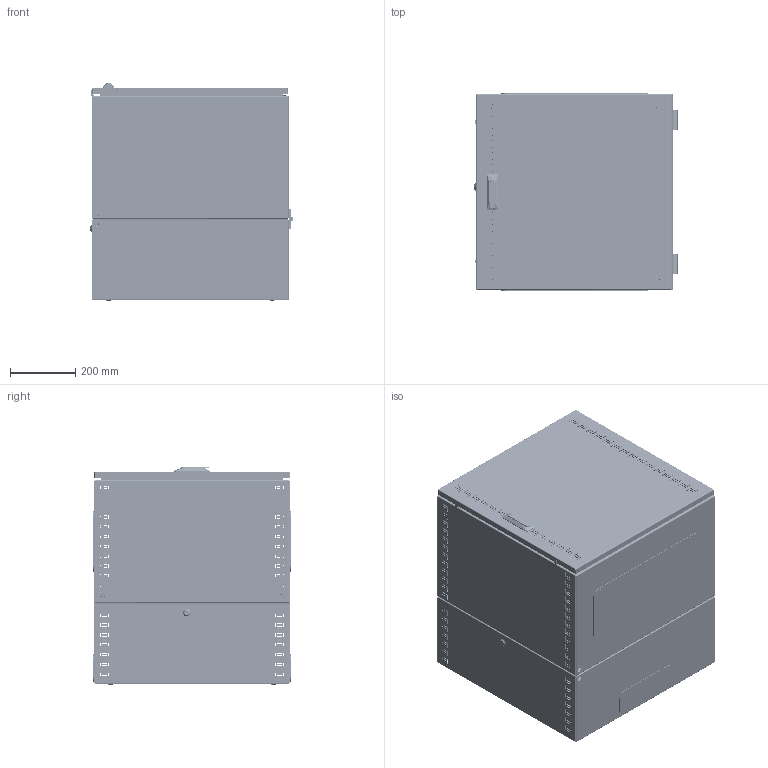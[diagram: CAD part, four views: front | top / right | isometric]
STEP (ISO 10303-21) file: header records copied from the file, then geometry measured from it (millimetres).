
FILE_DESCRIPTION (( 'STEP AP203' ), '1' );
FILE_NAME ('R5STI1265.STEP', '2019-07-16T12:17:35', ( '' ), ( '' ), 'SwSTEP 2.0', 'SolidWorks 2017', '' );
FILE_SCHEMA (( 'CONFIG_CONTROL_DESIGN' ));
Length unit declared in the file: millimetre
Products named in the file (49): M6 art.MGR-MKO-0625_2洵; AC00C380; RB.0048.02.01.0; RB.0374.06.00.0 ÑÁ_-01 (600å600); Lock 20x17,5x90 Ruslock; PF 7,5x15 door STI_0600å0600; Ì6õ12-A5100231_straight; RB.0692.02.01.0; R5STI1265; RB.0374.00.01.0_-00 (400); RB.0692.04.00.0 ÑÁ_-01 (600å600); Handle Mesan (part 1); RB.0692.03.00.0 C縫-01 (600x600); RB.0692.02.00.0 C縫-01 (600x600x400); MirrorRB.0374.00.01.0_-00 (400)<As Machined>; RB.0692.01.01.0_-01 (600å600å400); Handle Mesan (part 2); AC00C061_AC00C061; Hinge M8 60x60 Ruslock; MirrorMirrorRB.0374.00.01.0_-00 (400)<As Machined><As Machined>; RB.0692.01.02.0_-01 (600å600); Catch Mesan; RB.0374.04.01.0; M8-DIN 6923 (CM100800)_stright; RB.0374.00.02.0_-01 (12U); Ì6õ20-A5100001_straight; Handle Mesan (part 3); RB.0374.04.00.0 CÁ; RB.0374.05.01.0_-01 (600å600); AC00C399; RB.0374.00.02.0 mirror_-05 (12U); RB.0692.01.00.0 CÁ_-01 (600å600å400); 4.8x13 DIN 7981 (R5A07)_straight; M6-DIN 6923 (CM100600)_straight; AC00C398; M4x8 GOST 17475-80 (DIN 965)_straight; M6x12-DIN 6921_stright; RB.0374.03.01.0; M6x10-A1100004_straight; RB.0374.05.00.0 ÑÁ_-01 (600å600)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
Assembly tree (156 placements, depth 4):
  R5STI1265
    RB.0692.04.00.0 ÑÁ_-01 (600å600)
      RB.0692.03.00.0 C縫-01 (600x600)
        RB.0692.03.01.0_-01 (600x600)
        RB.0374.01.02.0_-01 (600x600)
        Ì6õ12-A5100231_straight  x2
      AC00C061_AC00C061  x4
      RB.0374.04.00.0 CÁ  x2
        RB.0374.04.01.0
        Ì6õ12-A5100231_straight
      M6-DIN 6923 (CM100600)_straight  x8
      Lock 20x17,5x90 Ruslock
        Lock 20x17,5x90 Ruslock
        Nut 20x17,5x90 Ruslock
    RB.0692.02.00.0 C縫-01 (600x600x400)
      RB.0692.01.00.0 CÁ_-01 (600å600å400)
        RB.0692.01.01.0_-01 (600å600å400)
        RB.0692.01.02.0_-01 (600å600)
        Ì6õ20-A5100001_straight  x4
        Ì6õ12-A5100231_straight  x12
      RB.0374.03.00.0 CÁ  x2
        RB.0374.03.01.0
        Ì6õ12-A5100231_straight
      RB.0048.02.01.0  x2
      AC00C399  x2
      M4x8 GOST 17475-80 (DIN 965)_straight  x4
      AC00C383  x2
      AC00C061_AC00C061  x8
      M6-DIN 6923 (CM100600)_straight  x8
      M6 art.MGR-MKO-0625_2洵  x2
      RB.0692.02.01.0  x2
    Hinge M8 60x60 Ruslock  x4
    M8-DIN 6923 (CM100800)_stright  x8
    RB.0374.06.00.0 ÑÁ_-01 (600å600)
      RB.0374.05.00.0 ÑÁ_-01 (600å600)
        RB.0374.05.01.0_-01 (600å600)
        AC00C398  x2
        Ì6õ12-A5100231_straight  x2
      AC00C112  x4
      AC00C061_AC00C061  x2
      PF 7,5x15 door STI_0600å0600
      Handle 308 Mesan
        Handle Mesan (part 1)
        Handle Mesan (part 2)
        Catch Mesan
        Handle Mesan (part 3)
        4.8x13 DIN 7981 (R5A07)_straight  x3
        M6x10-A1100004_straight
    RB.0374.00.01.0_-00 (400)
    MirrorRB.0374.00.01.0_-00 (400)<As Machined>  x2
    MirrorMirrorRB.0374.00.01.0_-00 (400)<As Machined><As Machined>
    RB.0374.00.02.0_-01 (12U)  x2
    RB.0374.00.02.0 mirror_-05 (12U)  x2
    M6-DIN 6923 (CM100600)_straight  x16
    M6x12-DIN 6921_stright  x8
    AC00C401_AC00C401  x2
    AC00C380  x2
Bounding box: 620 x 603 x 662.96 mm (x, y, z)
Volume: 4125032.6 mm3; surface area: 5908091.5 mm2
Topology: 217 solids, 217 shells, 8551 faces, 21885 edges, 13978 vertices
Faces by surface type: plane 5071, cylinder 1550, bspline 890, cone 786, torus 226, sphere 28
Entity records: 169602 total; most frequent: CARTESIAN_POINT 45072, ORIENTED_EDGE 24770, DIRECTION 21915, EDGE_CURVE 12385, LINE 9697, VECTOR 9697, VERTEX_POINT 8010, AXIS2_PLACEMENT_3D 6109
